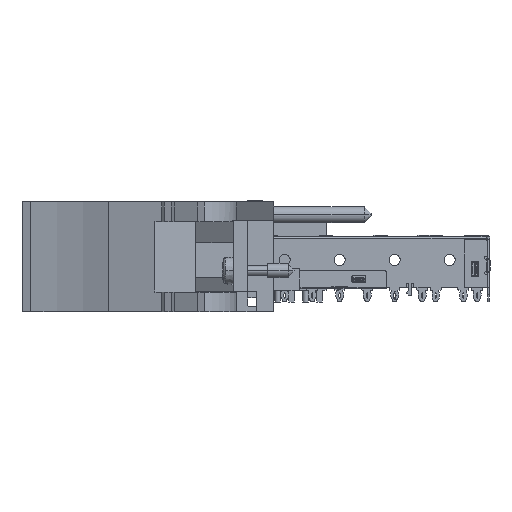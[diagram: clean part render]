
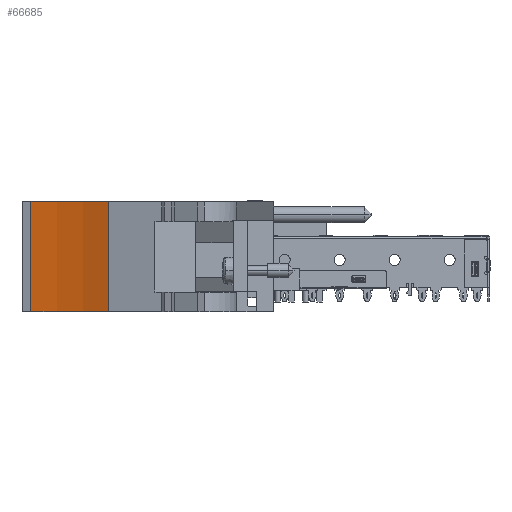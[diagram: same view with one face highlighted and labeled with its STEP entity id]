
A CAD part, front view. The second image highlights one B-rep face of the part: STEP entity #66685.
In plain terms, the highlighted cylindrical face has radius 51.46 mm (diameter 102.919 mm), a partial arc.
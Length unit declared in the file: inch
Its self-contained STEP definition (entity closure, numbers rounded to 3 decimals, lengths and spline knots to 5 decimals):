
#13676=CARTESIAN_POINT('',(-1.97678,-5.95043,0.697));
#13677=DIRECTION('',(0.,0.,1.));
#13678=DIRECTION('',(0.435,0.9,0.));
#13679=AXIS2_PLACEMENT_3D('',#13676,#13677,#13678);
#14021=CARTESIAN_POINT('',(-1.97678,-5.95043,-0.091));
#14022=DIRECTION('',(0.,0.,1.));
#14023=DIRECTION('',(0.435,0.9,0.));
#14024=AXIS2_PLACEMENT_3D('',#14021,#14022,#14023);
#14239=DIRECTION('',(0.,0.,1.));
#14240=VECTOR('',#14239,0.788);
#14241=CARTESIAN_POINT('',(-1.65345,-3.95043,-0.091));
#14242=LINE('',#14241,#14240);
#14247=DIRECTION('',(0.,0.,1.));
#14248=VECTOR('',#14247,0.788);
#14249=CARTESIAN_POINT('',(-1.09548,-4.12619,-0.091));
#14250=LINE('',#14249,#14248);
#42772=CARTESIAN_POINT('',(-1.09548,-4.12619,-0.091));
#42773=CARTESIAN_POINT('',(-1.65345,-3.95043,-0.091));
#42774=VERTEX_POINT('',#42772);
#42775=VERTEX_POINT('',#42773);
#42776=CARTESIAN_POINT('',(-1.09548,-4.12619,0.697));
#42777=CARTESIAN_POINT('',(-1.65345,-3.95043,0.697));
#42778=VERTEX_POINT('',#42776);
#42779=VERTEX_POINT('',#42777);
#66673=CARTESIAN_POINT('',(-1.97678,-5.95043,0.697));
#66674=DIRECTION('',(0.,0.,1.));
#66675=DIRECTION('',(0.,1.,0.));
#66676=AXIS2_PLACEMENT_3D('',#66673,#66674,#66675);
#66677=CYLINDRICAL_SURFACE('',#66676,2.02597);
#66678=ORIENTED_EDGE('',*,*,#66391,.T.);
#66679=ORIENTED_EDGE('',*,*,#66665,.T.);
#66680=ORIENTED_EDGE('',*,*,#65940,.F.);
#66682=ORIENTED_EDGE('',*,*,#66681,.F.);
#66683=EDGE_LOOP('',(#66678,#66679,#66680,#66682));
#66684=FACE_OUTER_BOUND('',#66683,.F.);
#66685=ADVANCED_FACE('',(#66684),#66677,.F.);
#13680=CIRCLE('',#13679,2.02597);
#14025=CIRCLE('',#14024,2.02597);
#65940=EDGE_CURVE('',#42778,#42779,#13680,.T.);
#66391=EDGE_CURVE('',#42774,#42775,#14025,.T.);
#66665=EDGE_CURVE('',#42775,#42779,#14242,.T.);
#66681=EDGE_CURVE('',#42774,#42778,#14250,.T.);
